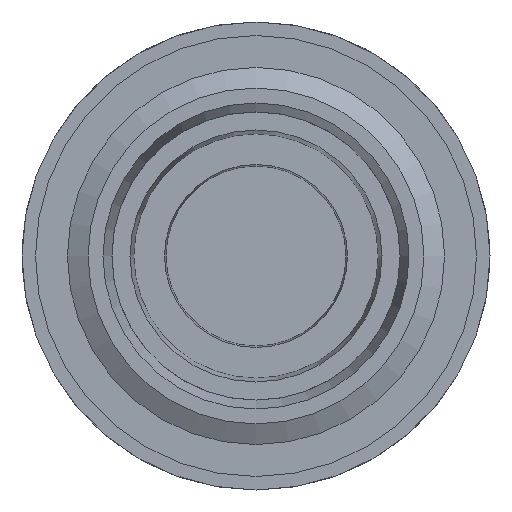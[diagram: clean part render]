
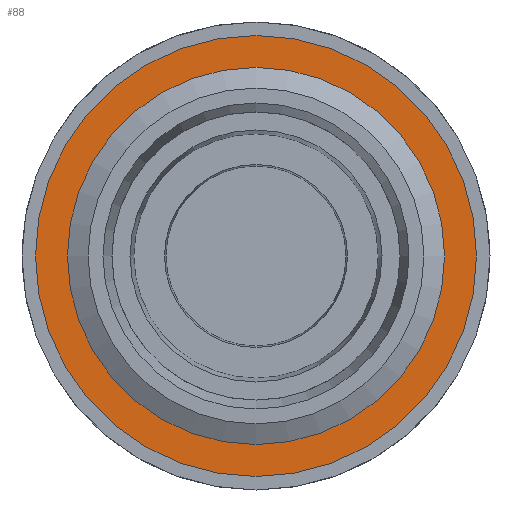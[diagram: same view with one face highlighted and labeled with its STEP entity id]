
A CAD part, left-side view. The second image highlights one B-rep face of the part: STEP entity #88.
In plain terms, the highlighted planar face has unit normal (-1, 0, 0).
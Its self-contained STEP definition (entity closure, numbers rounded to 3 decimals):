
#88 = ADVANCED_FACE( '', ( #214, #215 ), #216, .T. );
#214 = FACE_BOUND( '', #434, .T. );
#215 = FACE_OUTER_BOUND( '', #435, .T. );
#216 = PLANE( '', #436 );
#434 = EDGE_LOOP( '', ( #700 ) );
#435 = EDGE_LOOP( '', ( #701 ) );
#436 = AXIS2_PLACEMENT_3D( '', #702, #703, #704 );
#700 = ORIENTED_EDGE( '', *, *, #1159, .T. );
#701 = ORIENTED_EDGE( '', *, *, #1160, .F. );
#702 = CARTESIAN_POINT( '', ( 7.8, 12.25, 0. ) );
#703 = DIRECTION( '', ( -1., 0., 0. ) );
#704 = DIRECTION( '', ( 0., 0., 1. ) );
#1159 = EDGE_CURVE( '', #1366, #1366, #1367, .T. );
#1160 = EDGE_CURVE( '', #1368, #1368, #1369, .T. );
#1366 = VERTEX_POINT( '', #2470 );
#1367 = CIRCLE( '', #2471, 9.25 );
#1368 = VERTEX_POINT( '', #2472 );
#1369 = CIRCLE( '', #2473, 12.25 );
#2470 = CARTESIAN_POINT( '', ( 7.8, 0., -9.25 ) );
#2471 = AXIS2_PLACEMENT_3D( '', #2820, #2821, #2822 );
#2472 = CARTESIAN_POINT( '', ( 7.8, 0., -12.25 ) );
#2473 = AXIS2_PLACEMENT_3D( '', #2823, #2824, #2825 );
#2820 = CARTESIAN_POINT( '', ( 7.8, 0., 0. ) );
#2821 = DIRECTION( '', ( 1., 0., 0. ) );
#2822 = DIRECTION( '', ( 0., 0., -1. ) );
#2823 = CARTESIAN_POINT( '', ( 7.8, 0., 0. ) );
#2824 = DIRECTION( '', ( 1., 0., 0. ) );
#2825 = DIRECTION( '', ( 0., 0., -1. ) );
